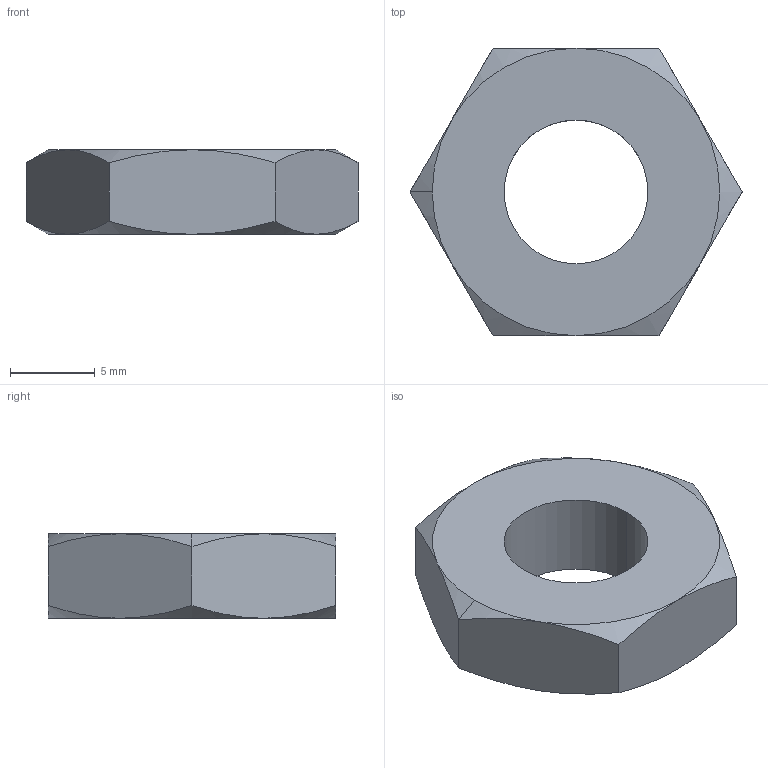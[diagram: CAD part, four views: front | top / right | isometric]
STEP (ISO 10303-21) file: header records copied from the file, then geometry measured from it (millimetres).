
FILE_DESCRIPTION (( 'STEP AP203' ), '1' );
FILE_NAME ('32700.W0515.step', '2016-02-10T17:13:45', ( 'User' ), ( '' ), 'SwSTEP 2.0', 'SolidWorks 2009', '' );
FILE_SCHEMA (( 'CONFIG_CONTROL_DESIGN' ));
Length unit declared in the file: millimetre
Products named in the file (1): 32700.W0515
Bounding box: 19.63 x 17 x 5 mm (x, y, z)
Volume: 957 mm3; surface area: 791.6 mm2
Topology: 1 solids, 1 shells, 24 faces, 52 edges, 30 vertices
Faces by surface type: cone 14, plane 8, cylinder 2
Entity records: 819 total; most frequent: CARTESIAN_POINT 251, ORIENTED_EDGE 104, DIRECTION 96, EDGE_CURVE 52, AXIS2_PLACEMENT_3D 43, VERTEX_POINT 30, EDGE_LOOP 26, B_SPLINE_CURVE_WITH_KNOTS 24
